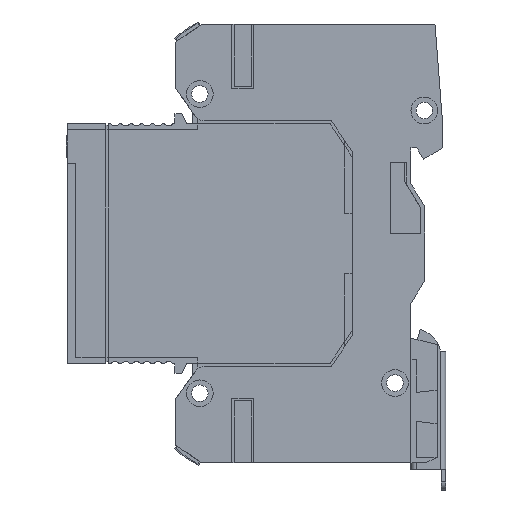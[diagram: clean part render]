
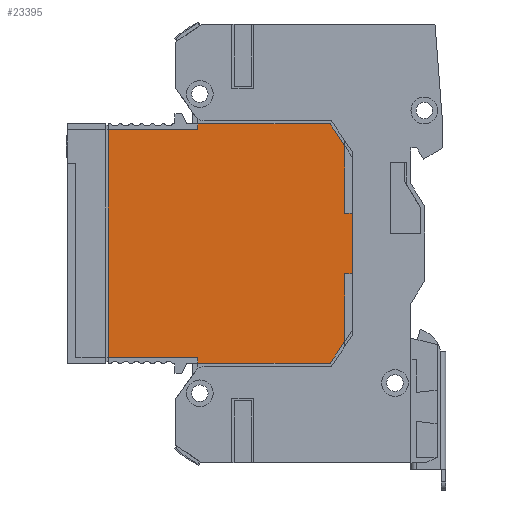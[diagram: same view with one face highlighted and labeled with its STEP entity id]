
A CAD part, left-side view. The second image highlights one B-rep face of the part: STEP entity #23395.
In plain terms, the highlighted planar face has unit normal (-1, 0, 0) as drawn and (0, -1, 0) by its records, which use the part's own axes.
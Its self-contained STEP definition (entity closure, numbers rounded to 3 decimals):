
#236 = CARTESIAN_POINT ( 'NONE',  ( -21.3, 0., -25.15 ) ) ;
#614 = VERTEX_POINT ( 'NONE', #99458 ) ;
#966 = CARTESIAN_POINT ( 'NONE',  ( 21.3, 0., -2.35 ) ) ;
#2173 = ORIENTED_EDGE ( 'NONE', *, *, #80982, .F. ) ;
#3581 = FACE_OUTER_BOUND ( 'NONE', #27981, .T. ) ;
#4472 = CARTESIAN_POINT ( 'NONE',  ( -21.3, 0., 25.15 ) ) ;
#5077 = LINE ( 'NONE', #88009, #54720 ) ;
#5614 = EDGE_CURVE ( 'NONE', #105424, #70393, #53043, .T. ) ;
#6658 = VECTOR ( 'NONE', #88396, 1000. ) ;
#7993 = DIRECTION ( 'NONE',  ( -1., 0., 0. ) ) ;
#8066 = EDGE_CURVE ( 'NONE', #74502, #24140, #69225, .T. ) ;
#8901 = CARTESIAN_POINT ( 'NONE',  ( -22.4, 0., 22.45 ) ) ;
#9456 = LINE ( 'NONE', #59557, #69254 ) ;
#9477 = VECTOR ( 'NONE', #78209, 1000. ) ;
#10824 = DIRECTION ( 'NONE',  ( -1., 0., 0. ) ) ;
#11224 = CARTESIAN_POINT ( 'NONE',  ( -18.3, 0., 25.15 ) ) ;
#11271 = ORIENTED_EDGE ( 'NONE', *, *, #67903, .F. ) ;
#13156 = CARTESIAN_POINT ( 'NONE',  ( -5.65, 0., 25.15 ) ) ;
#16695 = EDGE_CURVE ( 'NONE', #614, #97129, #43187, .T. ) ;
#17449 = ORIENTED_EDGE ( 'NONE', *, *, #5614, .T. ) ;
#18067 = LINE ( 'NONE', #236, #62582 ) ;
#20171 = DIRECTION ( 'NONE',  ( 0., 0., 1. ) ) ;
#21071 = VERTEX_POINT ( 'NONE', #26204 ) ;
#21126 = ORIENTED_EDGE ( 'NONE', *, *, #88403, .F. ) ;
#22753 = DIRECTION ( 'NONE',  ( 1., 0., 0. ) ) ;
#23248 = CARTESIAN_POINT ( 'NONE',  ( 22.4, 0., 22.45 ) ) ;
#23395 = ADVANCED_FACE ( 'NONE', ( #3581 ), #42829, .F. ) ;
#23810 = CARTESIAN_POINT ( 'NONE',  ( 21.3, 0., -25.15 ) ) ;
#24140 = VERTEX_POINT ( 'NONE', #11224 ) ;
#25101 = VECTOR ( 'NONE', #35588, 1000. ) ;
#25400 = VECTOR ( 'NONE', #7993, 1000. ) ;
#26012 = VERTEX_POINT ( 'NONE', #100250 ) ;
#26204 = CARTESIAN_POINT ( 'NONE',  ( 18.3, 0., 25.15 ) ) ;
#27944 = ORIENTED_EDGE ( 'NONE', *, *, #73131, .T. ) ;
#27981 = EDGE_LOOP ( 'NONE', ( #2173, #29864, #98939, #43527, #11271, #21126, #60023, #32454, #29136, #17449, #72306, #92504, #60440, #27944 ) ) ;
#28035 = EDGE_CURVE ( 'NONE', #84357, #614, #80629, .T. ) ;
#29136 = ORIENTED_EDGE ( 'NONE', *, *, #40013, .T. ) ;
#29864 = ORIENTED_EDGE ( 'NONE', *, *, #16695, .F. ) ;
#31339 = CARTESIAN_POINT ( 'NONE',  ( 5.65, 0., 26.55 ) ) ;
#32454 = ORIENTED_EDGE ( 'NONE', *, *, #64557, .T. ) ;
#32534 = CARTESIAN_POINT ( 'NONE',  ( -21.3, 0., -19.05 ) ) ;
#33367 = CARTESIAN_POINT ( 'NONE',  ( -5.65, 0., 26.55 ) ) ;
#34994 = DIRECTION ( 'NONE',  ( 0., 0., 1. ) ) ;
#35588 = DIRECTION ( 'NONE',  ( 0., 0., -1. ) ) ;
#36999 = DIRECTION ( 'NONE',  ( 0.835, 0., -0.55 ) ) ;
#38474 = DIRECTION ( 'NONE',  ( 0., 0., 1. ) ) ;
#38597 = VECTOR ( 'NONE', #38474, 1000. ) ;
#40013 = EDGE_CURVE ( 'NONE', #80407, #105424, #9456, .T. ) ;
#40227 = CARTESIAN_POINT ( 'NONE',  ( 22.4, 0., -2.35 ) ) ;
#40288 = DIRECTION ( 'NONE',  ( 1., 0., 0. ) ) ;
#42829 = PLANE ( 'NONE',  #90090 ) ;
#43187 = LINE ( 'NONE', #32534, #25400 ) ;
#43527 = ORIENTED_EDGE ( 'NONE', *, *, #105660, .T. ) ;
#44459 = VERTEX_POINT ( 'NONE', #103032 ) ;
#45077 = LINE ( 'NONE', #4472, #9477 ) ;
#47570 = VECTOR ( 'NONE', #88636, 1000. ) ;
#48295 = VECTOR ( 'NONE', #20171, 1000. ) ;
#52193 = EDGE_CURVE ( 'NONE', #24140, #70393, #45077, .T. ) ;
#52560 = LINE ( 'NONE', #87683, #38597 ) ;
#53043 = LINE ( 'NONE', #13156, #25101 ) ;
#54720 = VECTOR ( 'NONE', #22753, 1000. ) ;
#56571 = CARTESIAN_POINT ( 'NONE',  ( -21.3, 0., -19.05 ) ) ;
#57190 = VERTEX_POINT ( 'NONE', #23248 ) ;
#58832 = LINE ( 'NONE', #40227, #6658 ) ;
#58901 = VECTOR ( 'NONE', #97908, 1000. ) ;
#59557 = CARTESIAN_POINT ( 'NONE',  ( -5.65, 0., 26.55 ) ) ;
#59893 = DIRECTION ( 'NONE',  ( 0., 1., 0. ) ) ;
#60023 = ORIENTED_EDGE ( 'NONE', *, *, #78439, .F. ) ;
#60038 = VECTOR ( 'NONE', #78586, 1000. ) ;
#60440 = ORIENTED_EDGE ( 'NONE', *, *, #80333, .F. ) ;
#62582 = VECTOR ( 'NONE', #97826, 1000. ) ;
#62973 = VERTEX_POINT ( 'NONE', #73527 ) ;
#64557 = EDGE_CURVE ( 'NONE', #85298, #80407, #66077, .T. ) ;
#66077 = LINE ( 'NONE', #101793, #48295 ) ;
#67714 = CARTESIAN_POINT ( 'NONE',  ( 0., 0., 0. ) ) ;
#67903 = EDGE_CURVE ( 'NONE', #57190, #62973, #58832, .T. ) ;
#69225 = LINE ( 'NONE', #81139, #47570 ) ;
#69254 = VECTOR ( 'NONE', #10824, 1000. ) ;
#70337 = CARTESIAN_POINT ( 'NONE',  ( 21.3, 0., -2.35 ) ) ;
#70393 = VERTEX_POINT ( 'NONE', #71446 ) ;
#71446 = CARTESIAN_POINT ( 'NONE',  ( -5.65, 0., 25.15 ) ) ;
#72306 = ORIENTED_EDGE ( 'NONE', *, *, #52193, .F. ) ;
#73131 = EDGE_CURVE ( 'NONE', #26012, #44459, #86911, .T. ) ;
#73527 = CARTESIAN_POINT ( 'NONE',  ( 22.4, 0., -2.35 ) ) ;
#73834 = VECTOR ( 'NONE', #36999, 1000. ) ;
#74502 = VERTEX_POINT ( 'NONE', #8901 ) ;
#75399 = LINE ( 'NONE', #70337, #60038 ) ;
#78209 = DIRECTION ( 'NONE',  ( 1., 0., 0. ) ) ;
#78439 = EDGE_CURVE ( 'NONE', #85298, #21071, #5077, .T. ) ;
#78586 = DIRECTION ( 'NONE',  ( 1., 0., 0. ) ) ;
#80333 = EDGE_CURVE ( 'NONE', #26012, #74502, #52560, .T. ) ;
#80407 = VERTEX_POINT ( 'NONE', #31339 ) ;
#80629 = LINE ( 'NONE', #23810, #58901 ) ;
#80982 = EDGE_CURVE ( 'NONE', #97129, #44459, #18067, .T. ) ;
#81139 = CARTESIAN_POINT ( 'NONE',  ( -22.4, 0., 22.45 ) ) ;
#84357 = VERTEX_POINT ( 'NONE', #966 ) ;
#84358 = VECTOR ( 'NONE', #40288, 1000. ) ;
#85298 = VERTEX_POINT ( 'NONE', #86334 ) ;
#86334 = CARTESIAN_POINT ( 'NONE',  ( 5.65, 0., 25.15 ) ) ;
#86911 = LINE ( 'NONE', #89153, #84358 ) ;
#87683 = CARTESIAN_POINT ( 'NONE',  ( -22.4, 0., -2.35 ) ) ;
#88009 = CARTESIAN_POINT ( 'NONE',  ( -21.3, 0., 25.15 ) ) ;
#88396 = DIRECTION ( 'NONE',  ( 0., 0., -1. ) ) ;
#88403 = EDGE_CURVE ( 'NONE', #21071, #57190, #90458, .T. ) ;
#88636 = DIRECTION ( 'NONE',  ( 0.835, 0., 0.55 ) ) ;
#89153 = CARTESIAN_POINT ( 'NONE',  ( -21.3, 0., -2.35 ) ) ;
#90090 = AXIS2_PLACEMENT_3D ( 'NONE', #67714, #59893, #34994 ) ;
#90458 = LINE ( 'NONE', #95056, #73834 ) ;
#92504 = ORIENTED_EDGE ( 'NONE', *, *, #8066, .F. ) ;
#95056 = CARTESIAN_POINT ( 'NONE',  ( 22.4, 0., 22.45 ) ) ;
#97129 = VERTEX_POINT ( 'NONE', #56571 ) ;
#97826 = DIRECTION ( 'NONE',  ( 0., 0., 1. ) ) ;
#97908 = DIRECTION ( 'NONE',  ( 0., 0., -1. ) ) ;
#98939 = ORIENTED_EDGE ( 'NONE', *, *, #28035, .F. ) ;
#99458 = CARTESIAN_POINT ( 'NONE',  ( 21.3, 0., -19.05 ) ) ;
#100250 = CARTESIAN_POINT ( 'NONE',  ( -22.4, 0., -2.35 ) ) ;
#101793 = CARTESIAN_POINT ( 'NONE',  ( 5.65, 0., 25.15 ) ) ;
#103032 = CARTESIAN_POINT ( 'NONE',  ( -21.3, 0., -2.35 ) ) ;
#105424 = VERTEX_POINT ( 'NONE', #33367 ) ;
#105660 = EDGE_CURVE ( 'NONE', #84357, #62973, #75399, .T. ) ;
